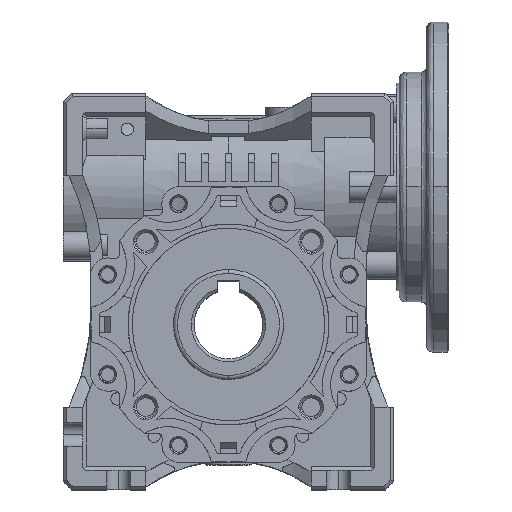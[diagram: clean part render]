
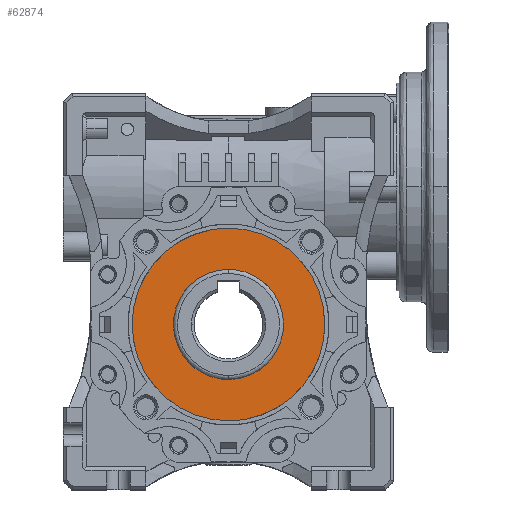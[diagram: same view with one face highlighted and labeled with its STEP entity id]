
A CAD part, top view. The second image highlights one B-rep face of the part: STEP entity #62874.
In plain terms, the highlighted planar face has unit normal (0, 0, 1).
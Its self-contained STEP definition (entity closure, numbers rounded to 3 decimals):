
#2033 = CARTESIAN_POINT ( 'NONE',  ( 33.212, -11.276, 46. ) ) ;
#2360 = CARTESIAN_POINT ( 'NONE',  ( 27.828, -21.348, 46. ) ) ;
#2417 = CARTESIAN_POINT ( 'NONE',  ( -7.662, 18.476, 46. ) ) ;
#2703 = CARTESIAN_POINT ( 'NONE',  ( 27.828, 21.351, 46. ) ) ;
#2760 = FACE_BOUND ( 'NONE', #55066, .T. ) ;
#4048 = CARTESIAN_POINT ( 'NONE',  ( -30.375, 17.542, 46. ) ) ;
#4380 = CARTESIAN_POINT ( 'NONE',  ( -17.541, 30.375, 46. ) ) ;
#4706 = CARTESIAN_POINT ( 'NONE',  ( -27.829, -21.348, 46. ) ) ;
#5226 = VERTEX_POINT ( 'NONE', #65180 ) ;
#7647 = ORIENTED_EDGE ( 'NONE', *, *, #55146, .F. ) ;
#7800 = DIRECTION ( 'NONE',  ( 0., 0., -1. ) ) ;
#8418 = CARTESIAN_POINT ( 'NONE',  ( 33.212, 11.279, 46. ) ) ;
#10724 = CARTESIAN_POINT ( 'NONE',  ( -9.076, 33.882, 46. ) ) ;
#10904 = DIRECTION ( 'NONE',  ( 0.924, 0.383, 0. ) ) ;
#11601 = ORIENTED_EDGE ( 'NONE', *, *, #56830, .F. ) ;
#12461 = CARTESIAN_POINT ( 'NONE',  ( 4.581, -34.773, 46. ) ) ;
#14142 = CARTESIAN_POINT ( 'NONE',  ( -34.775, -4.58, 46. ) ) ;
#14473 = CARTESIAN_POINT ( 'NONE',  ( -26.369, 23.13, 46. ) ) ;
#17495 = CARTESIAN_POINT ( 'NONE',  ( 2.29, 35.001, 46. ) ) ;
#17570 = AXIS2_PLACEMENT_3D ( 'NONE', #60474, #60148, #20055 ) ;
#17845 = CARTESIAN_POINT ( 'NONE',  ( 17.54, -30.373, 46. ) ) ;
#18175 = CARTESIAN_POINT ( 'NONE',  ( 2.29, -34.999, 46. ) ) ;
#18507 = CARTESIAN_POINT ( 'NONE',  ( 34.774, -4.58, 46. ) ) ;
#18767 = EDGE_CURVE ( 'NONE', #5226, #23264, #51406, .T. ) ;
#18833 = CARTESIAN_POINT ( 'NONE',  ( 34.774, 4.583, 46. ) ) ;
#19512 = CARTESIAN_POINT ( 'NONE',  ( -4.582, -34.773, 46. ) ) ;
#20055 = DIRECTION ( 'NONE',  ( 0.924, 0.383, 0. ) ) ;
#20159 = CARTESIAN_POINT ( 'NONE',  ( -11.278, -33.211, 46. ) ) ;
#22529 = CARTESIAN_POINT ( 'NONE',  ( 23.128, -26.367, 46. ) ) ;
#22590 = PLANE ( 'NONE',  #38657 ) ;
#22732 = CARTESIAN_POINT ( 'NONE',  ( -2.291, 35.001, 46. ) ) ;
#23215 = CARTESIAN_POINT ( 'NONE',  ( 21.349, 27.83, 46. ) ) ;
#23264 = VERTEX_POINT ( 'NONE', #62110 ) ;
#23429 = AXIS2_PLACEMENT_3D ( 'NONE', #36455, #57008, #10904 ) ;
#23544 = CARTESIAN_POINT ( 'NONE',  ( 33.88, 9.076, 46. ) ) ;
#23672 = EDGE_LOOP ( 'NONE', ( #7647, #11601 ) ) ;
#23865 = CARTESIAN_POINT ( 'NONE',  ( 9.074, 33.882, 46. ) ) ;
#25211 = CARTESIAN_POINT ( 'NONE',  ( -33.881, -9.074, 46. ) ) ;
#27567 = CARTESIAN_POINT ( 'NONE',  ( 11.277, 33.214, 46. ) ) ;
#29587 = CARTESIAN_POINT ( 'NONE',  ( -17.541, -30.373, 46. ) ) ;
#29915 = CARTESIAN_POINT ( 'NONE',  ( -21.35, 27.83, 46. ) ) ;
#30894 = CARTESIAN_POINT ( 'NONE',  ( -35.001, 2.292, 46. ) ) ;
#32341 = FACE_OUTER_BOUND ( 'NONE', #23672, .T. ) ;
#34645 = CARTESIAN_POINT ( 'NONE',  ( -34.775, 4.583, 46. ) ) ;
#34975 = CARTESIAN_POINT ( 'NONE',  ( -23.13, 26.37, 46. ) ) ;
#35299 = CARTESIAN_POINT ( 'NONE',  ( -9.076, -33.879, 46. ) ) ;
#35569 = VERTEX_POINT ( 'NONE', #52509 ) ;
#35949 = CARTESIAN_POINT ( 'NONE',  ( -21.35, -27.827, 46. ) ) ;
#36455 = CARTESIAN_POINT ( 'NONE',  ( -0.001, 0.001, 46. ) ) ;
#36788 = VERTEX_POINT ( 'NONE', #57074 ) ;
#38029 = CARTESIAN_POINT ( 'NONE',  ( 4.581, 34.776, 46. ) ) ;
#38371 = CARTESIAN_POINT ( 'NONE',  ( 34.999, -2.289, 46. ) ) ;
#38558 = CARTESIAN_POINT ( 'NONE',  ( -0.001, 35.001, 46. ) ) ;
#38657 = AXIS2_PLACEMENT_3D ( 'NONE', #2417, #7800, #48859 ) ;
#38703 = CARTESIAN_POINT ( 'NONE',  ( -0.001, -34.999, 46. ) ) ;
#39037 = CARTESIAN_POINT ( 'NONE',  ( 9.074, -33.879, 46. ) ) ;
#40054 = CARTESIAN_POINT ( 'NONE',  ( -33.213, -11.276, 46. ) ) ;
#40378 = CARTESIAN_POINT ( 'NONE',  ( -35.001, -2.289, 46. ) ) ;
#40695 = CARTESIAN_POINT ( 'NONE',  ( -30.375, -17.539, 46. ) ) ;
#42284 = ORIENTED_EDGE ( 'NONE', *, *, #42364, .F. ) ;
#42364 = EDGE_CURVE ( 'NONE', #23264, #5226, #63621, .T. ) ;
#42935 = CARTESIAN_POINT ( 'NONE',  ( -4.582, 34.776, 46. ) ) ;
#43420 = CARTESIAN_POINT ( 'NONE',  ( 23.128, 26.37, 46. ) ) ;
#43770 = CARTESIAN_POINT ( 'NONE',  ( 11.277, -33.211, 46. ) ) ;
#45107 = CARTESIAN_POINT ( 'NONE',  ( -0.001, -34.999, 46. ) ) ;
#45436 = CARTESIAN_POINT ( 'NONE',  ( -15.511, -31.458, 46. ) ) ;
#48130 = CARTESIAN_POINT ( 'NONE',  ( 26.368, 23.13, 46. ) ) ;
#48467 = CARTESIAN_POINT ( 'NONE',  ( 15.51, -31.458, 46. ) ) ;
#48805 = CARTESIAN_POINT ( 'NONE',  ( 15.51, 31.46, 46. ) ) ;
#48859 = DIRECTION ( 'NONE',  ( -0.383, 0.924, 0. ) ) ;
#48879 = B_SPLINE_CURVE_WITH_KNOTS ( 'NONE', 3,
 ( #45107, #66269, #19512, #35299, #20159, #45436, #29587, #35949, #56504, #60249, #4706, #40695, #50478, #40054, #25211, #14142, #40378, #30894, #34645, #65614, #51463, #50154, #4048, #60584, #14473, #34975, #29915, #4380, #60905, #53390, #10724, #42935, #22732, #38558 ),
 .UNSPECIFIED., .F., .F.,
 ( 4, 2, 2, 2, 2, 2, 2, 2, 2, 2, 2, 2, 2, 2, 2, 2, 4 ),
 ( 0., 0.062, 0.125, 0.188, 0.25, 0.313, 0.375, 0.438, 0.5, 0.563, 0.625, 0.688, 0.75, 0.812, 0.875, 0.937, 1. ),
 .UNSPECIFIED. ) ;
#49139 = CARTESIAN_POINT ( 'NONE',  ( 31.458, 15.512, 46. ) ) ;
#50154 = CARTESIAN_POINT ( 'NONE',  ( -31.46, 15.512, 46. ) ) ;
#50478 = CARTESIAN_POINT ( 'NONE',  ( -31.46, -15.509, 46. ) ) ;
#51406 = CIRCLE ( 'NONE', #23429, 20. ) ;
#51463 = CARTESIAN_POINT ( 'NONE',  ( -33.213, 11.279, 46. ) ) ;
#52344 = B_SPLINE_CURVE_WITH_KNOTS ( 'NONE', 3,
 ( #58908, #17495, #38029, #23865, #27567, #48805, #64924, #23215, #43420, #48130, #2703, #59241, #49139, #8418, #23544, #18833, #64596, #38371, #18507, #58570, #2033, #59909, #53530, #2360, #64273, #22529, #59579, #17845, #48467, #43770, #39037, #12461, #18175, #38703 ),
 .UNSPECIFIED., .F., .F.,
 ( 4, 2, 2, 2, 2, 2, 2, 2, 2, 2, 2, 2, 2, 2, 2, 2, 4 ),
 ( 0., 0.063, 0.125, 0.188, 0.25, 0.313, 0.375, 0.438, 0.5, 0.563, 0.625, 0.688, 0.75, 0.813, 0.875, 0.938, 1. ),
 .UNSPECIFIED. ) ;
#52509 = CARTESIAN_POINT ( 'NONE',  ( -0.001, -34.999, 46. ) ) ;
#53390 = CARTESIAN_POINT ( 'NONE',  ( -11.278, 33.214, 46. ) ) ;
#53530 = CARTESIAN_POINT ( 'NONE',  ( 30.373, -17.539, 46. ) ) ;
#55066 = EDGE_LOOP ( 'NONE', ( #62720, #42284 ) ) ;
#55146 = EDGE_CURVE ( 'NONE', #36788, #35569, #52344, .T. ) ;
#56504 = CARTESIAN_POINT ( 'NONE',  ( -23.13, -26.367, 46. ) ) ;
#56830 = EDGE_CURVE ( 'NONE', #35569, #36788, #48879, .T. ) ;
#57008 = DIRECTION ( 'NONE',  ( 0., 0., 1. ) ) ;
#57074 = CARTESIAN_POINT ( 'NONE',  ( -0.001, 35.001, 46. ) ) ;
#58570 = CARTESIAN_POINT ( 'NONE',  ( 33.88, -9.074, 46. ) ) ;
#58908 = CARTESIAN_POINT ( 'NONE',  ( -0.001, 35.001, 46. ) ) ;
#59241 = CARTESIAN_POINT ( 'NONE',  ( 30.373, 17.542, 46. ) ) ;
#59579 = CARTESIAN_POINT ( 'NONE',  ( 21.349, -27.827, 46. ) ) ;
#59909 = CARTESIAN_POINT ( 'NONE',  ( 31.458, -15.509, 46. ) ) ;
#60148 = DIRECTION ( 'NONE',  ( 0., 0., 1. ) ) ;
#60249 = CARTESIAN_POINT ( 'NONE',  ( -26.369, -23.128, 46. ) ) ;
#60474 = CARTESIAN_POINT ( 'NONE',  ( -0.001, 0.001, 46. ) ) ;
#60584 = CARTESIAN_POINT ( 'NONE',  ( -27.829, 21.351, 46. ) ) ;
#60905 = CARTESIAN_POINT ( 'NONE',  ( -15.511, 31.46, 46. ) ) ;
#62110 = CARTESIAN_POINT ( 'NONE',  ( -18.475, -7.66, 46. ) ) ;
#62720 = ORIENTED_EDGE ( 'NONE', *, *, #18767, .F. ) ;
#62874 = ADVANCED_FACE ( 'NONE', ( #2760, #32341 ), #22590, .F. ) ;
#63621 = CIRCLE ( 'NONE', #17570, 20. ) ;
#64273 = CARTESIAN_POINT ( 'NONE',  ( 26.368, -23.128, 46. ) ) ;
#64596 = CARTESIAN_POINT ( 'NONE',  ( 34.999, 2.292, 46. ) ) ;
#64924 = CARTESIAN_POINT ( 'NONE',  ( 17.54, 30.375, 46. ) ) ;
#65180 = CARTESIAN_POINT ( 'NONE',  ( 18.474, 7.662, 46. ) ) ;
#65614 = CARTESIAN_POINT ( 'NONE',  ( -33.881, 9.076, 46. ) ) ;
#66269 = CARTESIAN_POINT ( 'NONE',  ( -2.291, -34.999, 46. ) ) ;
